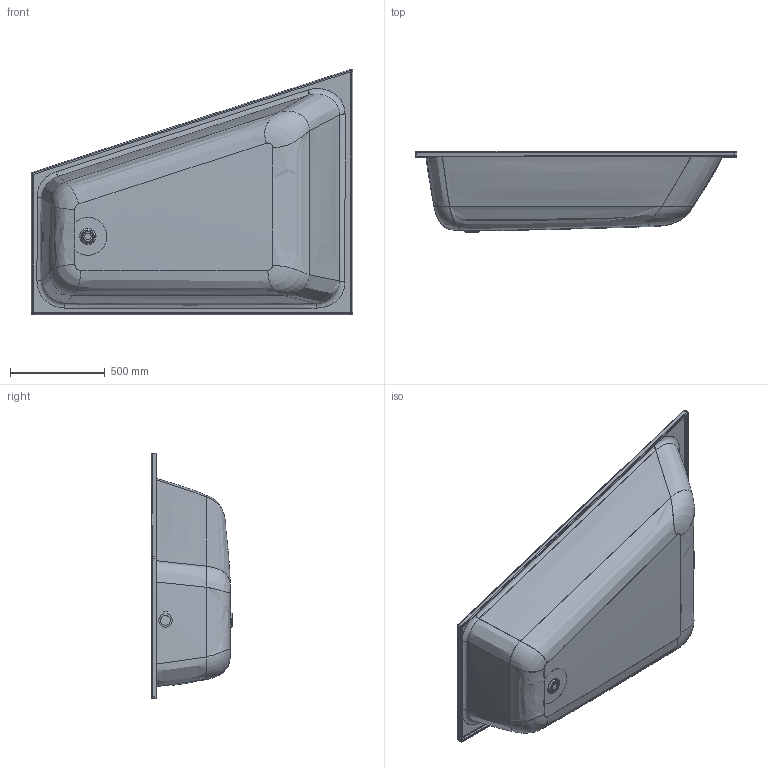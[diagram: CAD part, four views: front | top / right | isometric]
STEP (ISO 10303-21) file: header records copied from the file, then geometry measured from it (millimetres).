
FILE_DESCRIPTION((' '),'2;1');
FILE_NAME( '177f1b7eda9c24c3.stp', '2021-03-02T07:54:59', (' '), ('--- Datakit www.datakit.com---'), ' Datakit CrossCadWare V2021.1 Jan 6 2021', 'DATAKIT 2021 (c)', ' ');
FILE_SCHEMA(('CONFIG_CONTROL_DESIGN'));
Length unit declared in the file: millimetre
Products named in the file (1): 177f1b7d385714c3
Bounding box: 1699 x 430 x 1295.06 mm (x, y, z)
Volume: 7364008.1 mm3; surface area: 6326552.3 mm2
Topology: 3 solids, 3 shells, 149 faces, 339 edges, 200 vertices
Faces by surface type: cylinder 34, torus 32, bspline 32, plane 27, offset 20, cone 4
Full cylindrical faces by diameter (mm): 35 x1, 52 x2
Entity records: 29146 total; most frequent: CARTESIAN_POINT 26196, ORIENTED_EDGE 640, DIRECTION 498, EDGE_CURVE 320, AXIS2_PLACEMENT_3D 209, VERTEX_POINT 196, EDGE_LOOP 171, ADVANCED_FACE 149
